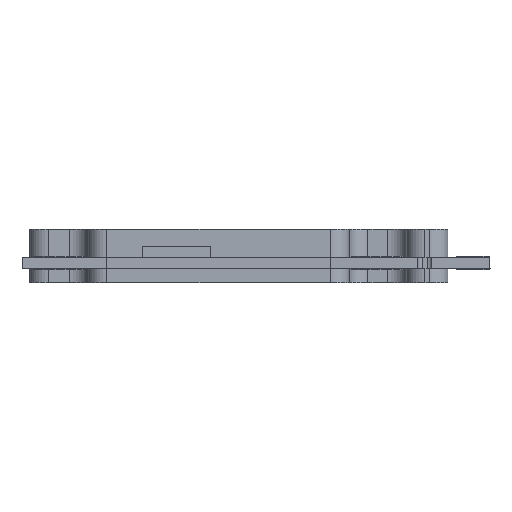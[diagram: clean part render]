
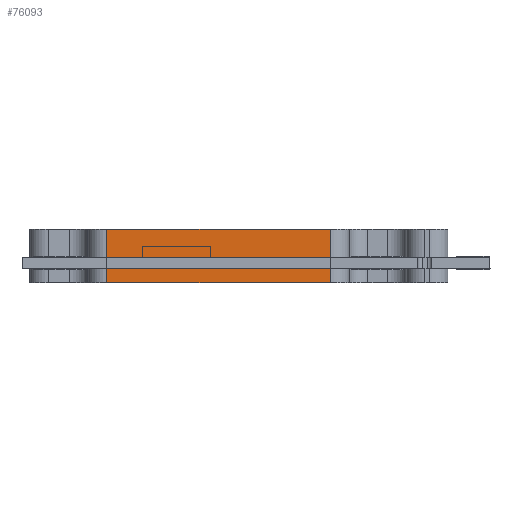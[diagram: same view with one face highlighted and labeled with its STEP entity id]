
A CAD part, left-side view. The second image highlights one B-rep face of the part: STEP entity #76093.
In plain terms, the highlighted planar face has unit normal (-1, 0, 0).
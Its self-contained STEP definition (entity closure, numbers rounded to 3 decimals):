
#76066=AXIS2_PLACEMENT_3D('Plane Axis2P3D',#76063,#76064,#76065) ;
#76041=CARTESIAN_POINT('Vertex',(0.2,40.95,3.)) ;
#76048=CARTESIAN_POINT('Vertex',(0.2,40.95,-2.7)) ;
#76051=CARTESIAN_POINT('Line Origine',(0.2,40.95,0.15)) ;
#76063=CARTESIAN_POINT('Axis2P3D Location',(0.2,42.95,0.)) ;
#76068=CARTESIAN_POINT('Line Origine',(0.2,29.,3.)) ;
#76072=CARTESIAN_POINT('Vertex',(0.2,17.05,3.)) ;
#76075=CARTESIAN_POINT('Line Origine',(0.2,29.,-2.7)) ;
#76079=CARTESIAN_POINT('Vertex',(0.2,17.05,-2.7)) ;
#76082=CARTESIAN_POINT('Line Origine',(0.2,17.05,0.15)) ;
#76052=DIRECTION('Vector Direction',(0.,0.,1.)) ;
#76064=DIRECTION('Axis2P3D Direction',(-1.,0.,0.)) ;
#76065=DIRECTION('Axis2P3D XDirection',(0.,-1.,0.)) ;
#76069=DIRECTION('Vector Direction',(0.,-1.,0.)) ;
#76076=DIRECTION('Vector Direction',(0.,-1.,0.)) ;
#76083=DIRECTION('Vector Direction',(0.,0.,1.)) ;
#76053=VECTOR('Line Direction',#76052,1.) ;
#76070=VECTOR('Line Direction',#76069,1.) ;
#76077=VECTOR('Line Direction',#76076,1.) ;
#76084=VECTOR('Line Direction',#76083,1.) ;
#76088=ORIENTED_EDGE('',*,*,#76074,.F.) ;
#76089=ORIENTED_EDGE('',*,*,#76055,.F.) ;
#76090=ORIENTED_EDGE('',*,*,#76081,.T.) ;
#76091=ORIENTED_EDGE('',*,*,#76086,.T.) ;
#76093=ADVANCED_FACE('Over-Under-Surface',(#76092),#76067,.T.) ;
#76055=EDGE_CURVE('',#76049,#76042,#76054,.T.) ;
#76074=EDGE_CURVE('',#76042,#76073,#76071,.T.) ;
#76081=EDGE_CURVE('',#76049,#76080,#76078,.T.) ;
#76086=EDGE_CURVE('',#76080,#76073,#76085,.T.) ;
#76087=EDGE_LOOP('',(#76088,#76089,#76090,#76091)) ;
#76092=FACE_OUTER_BOUND('',#76087,.T.) ;
#76054=LINE('Line',#76051,#76053) ;
#76071=LINE('Line',#76068,#76070) ;
#76078=LINE('Line',#76075,#76077) ;
#76085=LINE('Line',#76082,#76084) ;
#76067=PLANE('Plane',#76066) ;
#76042=VERTEX_POINT('',#76041) ;
#76049=VERTEX_POINT('',#76048) ;
#76073=VERTEX_POINT('',#76072) ;
#76080=VERTEX_POINT('',#76079) ;
